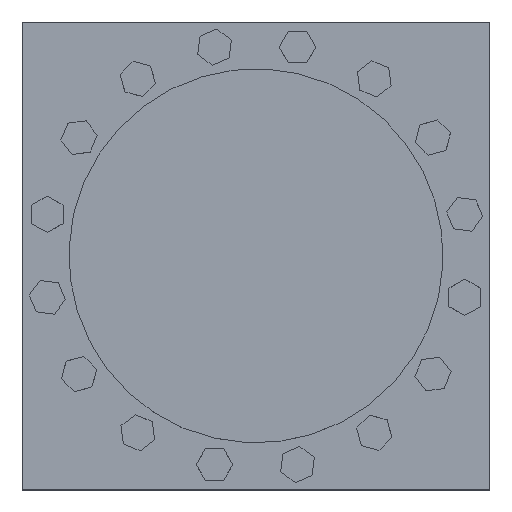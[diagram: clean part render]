
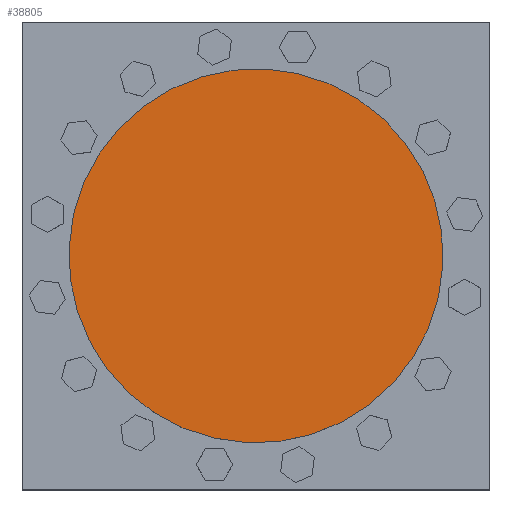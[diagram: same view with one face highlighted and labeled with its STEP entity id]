
A CAD part, top view. The second image highlights one B-rep face of the part: STEP entity #38805.
In plain terms, the highlighted planar face has unit normal (0, 0, 1).
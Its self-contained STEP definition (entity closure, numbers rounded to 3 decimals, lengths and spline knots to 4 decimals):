
#6035=PLANE('',#41558);
#8274=FACE_OUTER_BOUND('',#10951,.T.);
#10951=EDGE_LOOP('',(#25298));
#14546=CIRCLE('',#41556,10.);
#16541=VERTEX_POINT('',#56833);
#20074=EDGE_CURVE('',#16541,#16541,#14546,.T.);
#25298=ORIENTED_EDGE('',*,*,#20074,.T.);
#38805=ADVANCED_FACE('',(#8274),#6035,.T.);
#41556=AXIS2_PLACEMENT_3D('',#56834,#46072,#46073);
#41558=AXIS2_PLACEMENT_3D('',#56836,#46076,#46077);
#46072=DIRECTION('center_axis',(0.,0.,
1.));
#46073=DIRECTION('ref_axis',(-0.975,0.224,0.));
#46076=DIRECTION('center_axis',(0.,0.,
1.));
#46077=DIRECTION('ref_axis',(-0.975,0.224,0.));
#56833=CARTESIAN_POINT('',(9.7452,-2.2432,10.));
#56834=CARTESIAN_POINT('Origin',(0.,0.,
10.));
#56836=CARTESIAN_POINT('Origin',(0.,0.,
10.));
